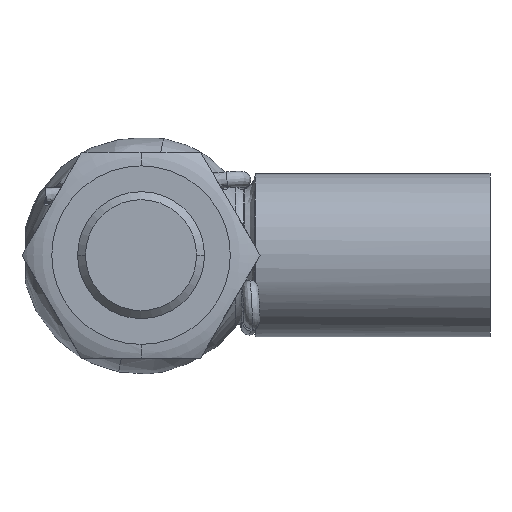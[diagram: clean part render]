
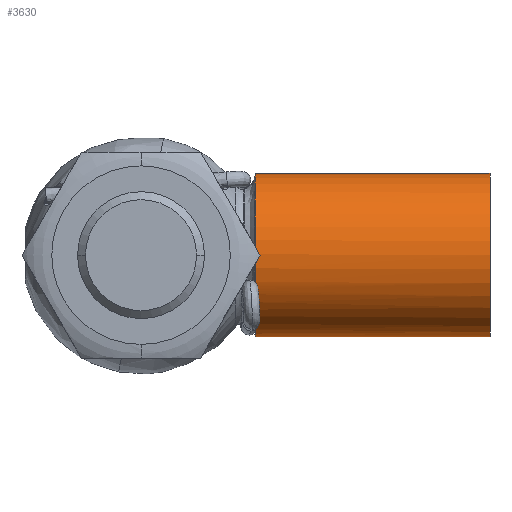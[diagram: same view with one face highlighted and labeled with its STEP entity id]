
A CAD part, front view. The second image highlights one B-rep face of the part: STEP entity #3630.
In plain terms, the highlighted cylindrical face has radius 5.15 mm (diameter 10.3 mm), a partial arc.
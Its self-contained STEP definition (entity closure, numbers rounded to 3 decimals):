
#106 = CARTESIAN_POINT ( 'NONE',  ( 7.265, -3.36, -3.903 ) ) ;
#170 = EDGE_CURVE ( 'NONE', #2141, #10227, #5577, .T. ) ;
#251 = ORIENTED_EDGE ( 'NONE', *, *, #6949, .F. ) ;
#364 = CIRCLE ( 'NONE', #9954, 5.15 ) ;
#525 = ORIENTED_EDGE ( 'NONE', *, *, #8012, .F. ) ;
#614 = ORIENTED_EDGE ( 'NONE', *, *, #8917, .T. ) ;
#697 = EDGE_CURVE ( 'NONE', #6979, #2141, #5650, .T. ) ;
#712 = CARTESIAN_POINT ( 'NONE',  ( 7.203, -4.516, -2.476 ) ) ;
#765 = EDGE_CURVE ( 'NONE', #6979, #9350, #10438, .T. ) ;
#838 = CARTESIAN_POINT ( 'NONE',  ( 7.246, -3.382, -3.884 ) ) ;
#1014 = CARTESIAN_POINT ( 'NONE',  ( 7.34, -4.642, -2.232 ) ) ;
#1020 = CARTESIAN_POINT ( 'NONE',  ( 7.203, -4.861, -1.7 ) ) ;
#1082 = ORIENTED_EDGE ( 'NONE', *, *, #765, .F. ) ;
#1161 = CARTESIAN_POINT ( 'NONE',  ( 16.117, 0., 5.15 ) ) ;
#1386 = AXIS2_PLACEMENT_3D ( 'NONE', #3628, #2067, #2838 ) ;
#1447 = CYLINDRICAL_SURFACE ( 'NONE', #6381, 5.15 ) ;
#1500 = CARTESIAN_POINT ( 'NONE',  ( 16.117, 0., -5.15 ) ) ;
#1645 = CIRCLE ( 'NONE', #6230, 5.15 ) ;
#1703 = DIRECTION ( 'NONE',  ( 0., 0., 1. ) ) ;
#1733 = VECTOR ( 'NONE', #7698, 1000. ) ;
#1753 = CARTESIAN_POINT ( 'NONE',  ( 7.223, -3.361, -3.902 ) ) ;
#1771 = CARTESIAN_POINT ( 'NONE',  ( 7.203, 0., 0. ) ) ;
#1848 = DIRECTION ( 'NONE',  ( 1., 0., 0. ) ) ;
#2005 = AXIS2_PLACEMENT_3D ( 'NONE', #8333, #5077, #5896 ) ;
#2067 = DIRECTION ( 'NONE',  ( -1., 0., 0. ) ) ;
#2141 = VERTEX_POINT ( 'NONE', #7986 ) ;
#2602 = VERTEX_POINT ( 'NONE', #4911 ) ;
#2611 = VERTEX_POINT ( 'NONE', #4833 ) ;
#2838 = DIRECTION ( 'NONE',  ( 0., 0., -1. ) ) ;
#2881 = LINE ( 'NONE', #1500, #5591 ) ;
#2997 = EDGE_CURVE ( 'NONE', #5556, #2602, #8369, .T. ) ;
#3208 = EDGE_CURVE ( 'NONE', #2602, #10068, #6432, .T. ) ;
#3433 = DIRECTION ( 'NONE',  ( 0., 0., -1. ) ) ;
#3498 = FACE_OUTER_BOUND ( 'NONE', #7489, .T. ) ;
#3628 = CARTESIAN_POINT ( 'NONE',  ( 22.003, 0., 0. ) ) ;
#3630 = ADVANCED_FACE ( 'NONE', ( #3498 ), #1447, .T. ) ;
#3875 = ORIENTED_EDGE ( 'NONE', *, *, #8413, .T. ) ;
#4043 = CARTESIAN_POINT ( 'NONE',  ( 7.203, -4.861, -1.7 ) ) ;
#4071 = CARTESIAN_POINT ( 'NONE',  ( 7.203, -3.423, -3.848 ) ) ;
#4388 = ORIENTED_EDGE ( 'NONE', *, *, #2997, .T. ) ;
#4540 = ORIENTED_EDGE ( 'NONE', *, *, #170, .T. ) ;
#4725 = CARTESIAN_POINT ( 'NONE',  ( 7.203, -4.516, -2.476 ) ) ;
#4769 = DIRECTION ( 'NONE',  ( -1., 0., 0. ) ) ;
#4833 = CARTESIAN_POINT ( 'NONE',  ( 7.203, 0., -5.15 ) ) ;
#4911 = CARTESIAN_POINT ( 'NONE',  ( 22.003, 0., 5.15 ) ) ;
#5043 = CARTESIAN_POINT ( 'NONE',  ( 7.284, -4.578, -2.36 ) ) ;
#5077 = DIRECTION ( 'NONE',  ( 1., 0., 0. ) ) ;
#5155 =( BOUNDED_CURVE ( )  B_SPLINE_CURVE ( 3, ( #6604, #1753, #8132, #8252 ),
 .UNSPECIFIED., .F., .F. ) 
 B_SPLINE_CURVE_WITH_KNOTS ( ( 4, 4 ),
 ( 4.071, 4.072 ),
 .UNSPECIFIED. ) 
 CURVE ( )  GEOMETRIC_REPRESENTATION_ITEM ( )  RATIONAL_B_SPLINE_CURVE ( ( 1., 1., 1., 1. ) ) 
 REPRESENTATION_ITEM ( '' )  );
#5525 = ORIENTED_EDGE ( 'NONE', *, *, #3208, .T. ) ;
#5556 = VERTEX_POINT ( 'NONE', #9325 ) ;
#5577 = B_SPLINE_CURVE_WITH_KNOTS ( 'NONE', 3,
 ( #4071, #8202, #838, #106 ),
 .UNSPECIFIED., .F., .F.,
 ( 4, 4 ),
 ( 0., 0. ),
 .UNSPECIFIED. ) ;
#5591 = VECTOR ( 'NONE', #4769, 1000. ) ;
#5650 = CIRCLE ( 'NONE', #2005, 5.15 ) ;
#5749 = CARTESIAN_POINT ( 'NONE',  ( 16.117, 0., 0. ) ) ;
#5858 = CARTESIAN_POINT ( 'NONE',  ( 7.246, -4.547, -2.42 ) ) ;
#5896 = DIRECTION ( 'NONE',  ( 0., 0., -1. ) ) ;
#6230 = AXIS2_PLACEMENT_3D ( 'NONE', #7015, #6982, #7844 ) ;
#6381 = AXIS2_PLACEMENT_3D ( 'NONE', #5749, #7559, #1703 ) ;
#6432 = LINE ( 'NONE', #1161, #1733 ) ;
#6604 = CARTESIAN_POINT ( 'NONE',  ( 7.203, -3.362, -3.901 ) ) ;
#6730 = CARTESIAN_POINT ( 'NONE',  ( 7.359, -4.675, -2.163 ) ) ;
#6940 = CARTESIAN_POINT ( 'NONE',  ( 7.265, -3.36, -3.903 ) ) ;
#6949 = EDGE_CURVE ( 'NONE', #5556, #2611, #2881, .T. ) ;
#6979 = VERTEX_POINT ( 'NONE', #712 ) ;
#6982 = DIRECTION ( 'NONE',  ( 1., 0., 0. ) ) ;
#7015 = CARTESIAN_POINT ( 'NONE',  ( 7.203, 0., 0. ) ) ;
#7246 = VERTEX_POINT ( 'NONE', #9905 ) ;
#7351 = CARTESIAN_POINT ( 'NONE',  ( 7.367, -4.737, -2.022 ) ) ;
#7388 = CARTESIAN_POINT ( 'NONE',  ( 7.357, -4.768, -1.949 ) ) ;
#7489 = EDGE_LOOP ( 'NONE', ( #251, #4388, #5525, #3875, #1082, #9060, #4540, #525, #614 ) ) ;
#7544 = CARTESIAN_POINT ( 'NONE',  ( 7.203, 0., 5.15 ) ) ;
#7559 = DIRECTION ( 'NONE',  ( -1., 0., 0. ) ) ;
#7698 = DIRECTION ( 'NONE',  ( -1., 0., 0. ) ) ;
#7844 = DIRECTION ( 'NONE',  ( 0., 0., -1. ) ) ;
#7986 = CARTESIAN_POINT ( 'NONE',  ( 7.203, -3.423, -3.848 ) ) ;
#8012 = EDGE_CURVE ( 'NONE', #7246, #10227, #5155, .T. ) ;
#8132 = CARTESIAN_POINT ( 'NONE',  ( 7.244, -3.361, -3.902 ) ) ;
#8202 = CARTESIAN_POINT ( 'NONE',  ( 7.226, -3.404, -3.865 ) ) ;
#8252 = CARTESIAN_POINT ( 'NONE',  ( 7.265, -3.36, -3.903 ) ) ;
#8333 = CARTESIAN_POINT ( 'NONE',  ( 7.203, 0., 0. ) ) ;
#8369 = CIRCLE ( 'NONE', #1386, 5.15 ) ;
#8413 = EDGE_CURVE ( 'NONE', #10068, #9350, #364, .T. ) ;
#8917 = EDGE_CURVE ( 'NONE', #7246, #2611, #1645, .T. ) ;
#8950 = CARTESIAN_POINT ( 'NONE',  ( 7.26, -4.844, -1.751 ) ) ;
#9060 = ORIENTED_EDGE ( 'NONE', *, *, #697, .T. ) ;
#9325 = CARTESIAN_POINT ( 'NONE',  ( 22.003, 0., -5.15 ) ) ;
#9350 = VERTEX_POINT ( 'NONE', #1020 ) ;
#9886 = CARTESIAN_POINT ( 'NONE',  ( 7.304, -4.821, -1.814 ) ) ;
#9905 = CARTESIAN_POINT ( 'NONE',  ( 7.203, -3.362, -3.901 ) ) ;
#9954 = AXIS2_PLACEMENT_3D ( 'NONE', #1771, #1848, #3433 ) ;
#10068 = VERTEX_POINT ( 'NONE', #7544 ) ;
#10227 = VERTEX_POINT ( 'NONE', #6940 ) ;
#10438 = B_SPLINE_CURVE_WITH_KNOTS ( 'NONE', 3,
 ( #4725, #5858, #5043, #1014, #6730, #7351, #7388, #9886, #8950, #4043 ),
 .UNSPECIFIED., .F., .F.,
 ( 4, 2, 2, 2, 4 ),
 ( 0., 0., 0., 0.001, 0.001 ),
 .UNSPECIFIED. ) ;
